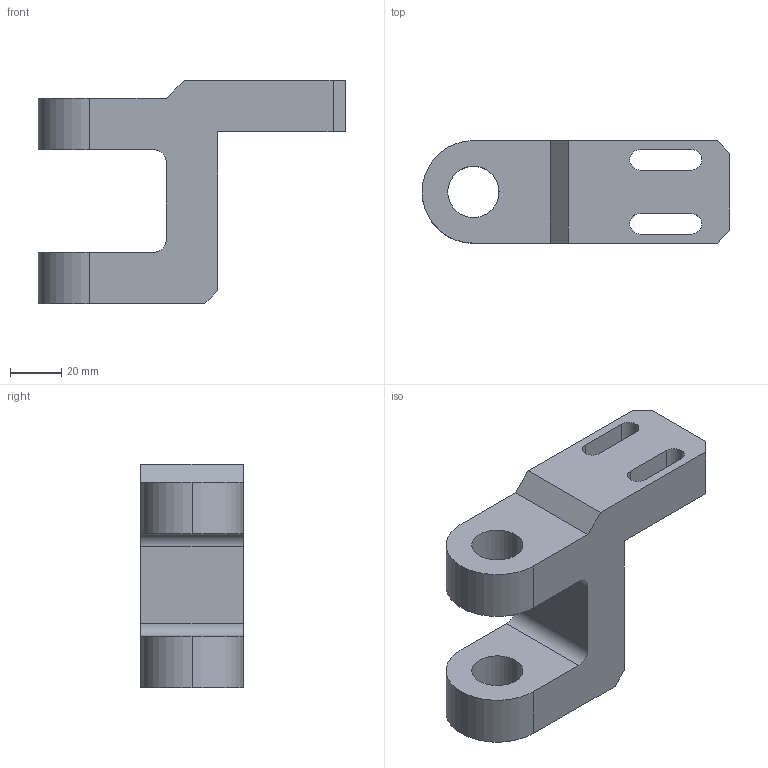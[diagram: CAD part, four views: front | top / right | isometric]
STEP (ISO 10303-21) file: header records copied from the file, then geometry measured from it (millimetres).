
FILE_DESCRIPTION (( 'STEP AP203' ), '1' );
FILE_NAME ('YWSD-2026-03-01-05-03=001 皮带涨紧轮支撑座.STEP', '2026-07-24T07:38:13', ( 'Windows 用户' ), ( '' ), 'SwSTEP 2.0', 'SolidWorks 2024', '' );
FILE_SCHEMA (( 'CONFIG_CONTROL_DESIGN' ));
Length unit declared in the file: millimetre
Products named in the file (1): YWSD-2026-03-01-05-03=001 皮带涨紧轮支撑座
Bounding box: 120 x 40 x 87 mm (x, y, z)
Volume: 160205 mm3; surface area: 31014.9 mm2
Topology: 1 solids, 1 shells, 35 faces, 99 edges, 66 vertices
Faces by surface type: plane 19, cylinder 16
Entity records: 1238 total; most frequent: DIRECTION 203, CARTESIAN_POINT 201, ORIENTED_EDGE 198, EDGE_CURVE 99, AXIS2_PLACEMENT_3D 68, LINE 67, VECTOR 67, VERTEX_POINT 66
